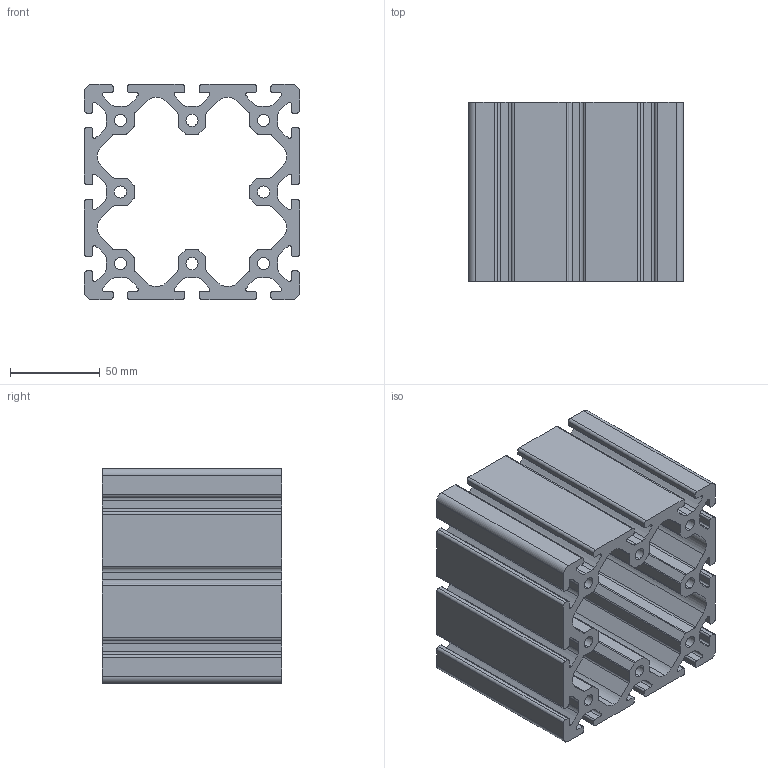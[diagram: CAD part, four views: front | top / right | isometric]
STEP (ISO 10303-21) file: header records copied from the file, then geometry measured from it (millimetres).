
FILE_DESCRIPTION (( 'STEP AP203' ), '1' );
FILE_NAME ('0108P120120S.STEP', '2024-02-29T13:34:31', ( 'Windows-Benutzer' ), ( '' ), 'SwSTEP 2.0', 'SolidWorks 2023', '' );
FILE_SCHEMA (( 'CONFIG_CONTROL_DESIGN' ));
Length unit declared in the file: millimetre
Products named in the file (1): 0108P120120S
Bounding box: 120 x 100 x 120 mm (x, y, z)
Volume: 460246.6 mm3; surface area: 165529.7 mm2
Topology: 1 solids, 1 shells, 322 faces, 960 edges, 640 vertices
Faces by surface type: cylinder 196, plane 126
Entity records: 11089 total; most frequent: DIRECTION 1998, CARTESIAN_POINT 1923, ORIENTED_EDGE 1920, EDGE_CURVE 960, AXIS2_PLACEMENT_3D 715, VERTEX_POINT 640, VECTOR 568, LINE 568
